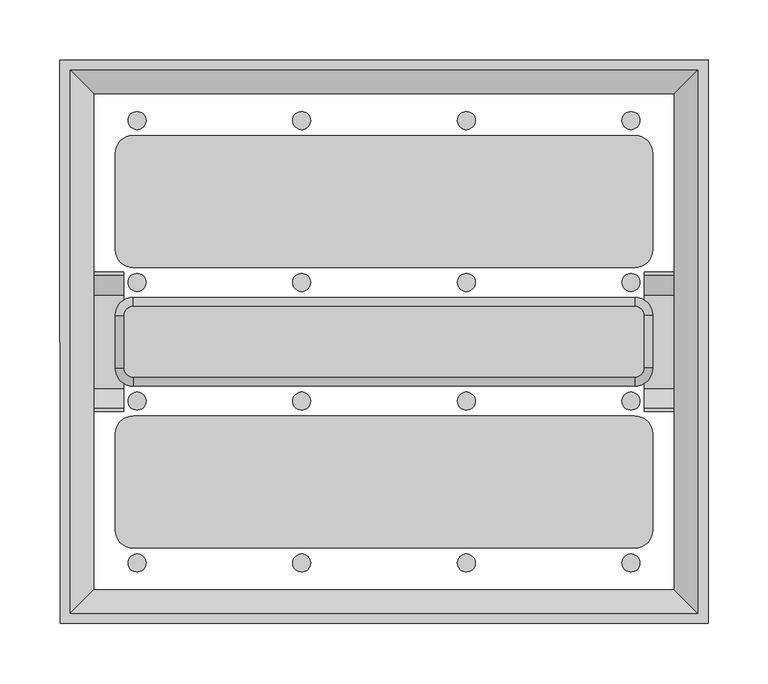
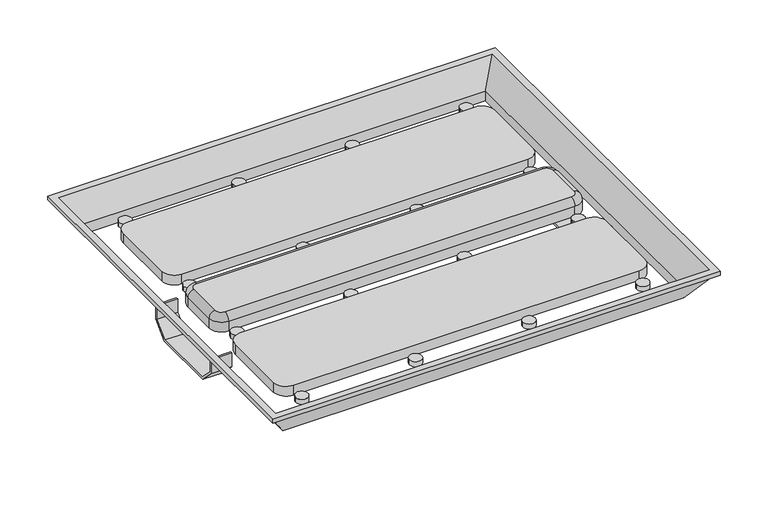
"""IFC4 building model written with IfcOpenShell, lengths in millimetres: light fixture geometry, Zumtobel CRAFT II Performance : CR2 M13k-840 PM WB LDO WH."""

from ifc_helpers import new_model, si_unit, point, frame, frame_2d, origin, place, context, project, spatial, polyline, circle_curve, ellipse_curve, trimmed, segment, composite_curve, outline, extrude, faceted_brep, source, transform, mapped, element, save
from ifc_brep_helpers import plane_surface, cylinder_surface, revolved_surface, advanced_brep


def light_fixture_134d5059(model_context):
    return source(origin(), model_context, "Body", "SolidModel", [
        extrude(outline(polyline([(58.0, 191.0), (40.0, 173.0), (-40.0, 173.0), (-58.0, 191.0), (-58.0, 209.0), (-55.5, 209.0), (-55.5, 192.0355339), (-38.9644661, 175.5), (38.9644661, 175.5), (55.5, 192.0355339), (55.5, 209.0), (58.0, 209.0), (58.0, 191.0)])), frame((616.5000048, 0.0, 0.0), z_axis=(1.0, 0.0, 0.0), x_axis=(0.0, 1.0, 0.0)), (0.0, 0.0, 1.0), 25.0),
        extrude(outline(polyline([(58.0, 191.0), (40.0, 173.0), (-40.0, 173.0), (-58.0, 191.0), (-58.0, 209.0), (-55.5, 209.0), (-55.5, 192.0355339), (-38.9644661, 175.5), (38.9644661, 175.5), (55.5, 192.0355339), (55.5, 209.0), (58.0, 209.0), (58.0, 191.0)])), frame((157.5000048, 0.0, 0.0), z_axis=(1.0, 0.0, 0.0), x_axis=(0.0, 1.0, 0.0)), (0.0, 0.0, 1.0), 25.0),
        faceted_brep([(641.5000048, 207.0, 209.0), (666.0853707, 231.5853659, 245.0), (666.0853707, -231.5853659, 245.0), (641.5000048, -207.0, 209.0), (641.5000048, 207.0, 221.5), (641.5000048, -207.0, 221.5), (660.9634195, 226.4634146, 250.0), (660.9634195, -226.4634146, 250.0), (669.5000048, 235.0, 245.0), (669.5000048, 235.0, 250.0), (669.5000048, -235.0, 250.0), (669.5000048, -235.0, 245.0), (132.914639, -231.5853659, 245.0), (157.5000048, -207.0, 209.0), (157.5000048, -207.0, 221.5), (138.0365902, -226.4634146, 250.0), (129.5000048, -235.0, 250.0), (129.5000048, -235.0, 245.0), (132.914639, 231.5853659, 245.0), (157.5000048, 207.0, 209.0), (157.5000048, 207.0, 221.5), (138.0365902, 226.4634146, 250.0), (129.5000048, 235.0, 250.0), (129.5000048, 235.0, 245.0)], [[[0, 1, 2, 3]], [[4, 0, 3, 5]], [[6, 4, 5, 7]], [[8, 9, 10, 11]], [[3, 2, 12, 13]], [[5, 3, 13, 14]], [[7, 5, 14, 15]], [[11, 10, 16, 17]], [[13, 12, 18, 19]], [[14, 13, 19, 20]], [[15, 14, 20, 21]], [[17, 16, 22, 23]], [[19, 18, 1, 0]], [[20, 19, 0, 4]], [[21, 20, 4, 6]], [[9, 22, 16, 10], [7, 15, 21, 6]], [[23, 22, 9, 8]], [[11, 17, 23, 8], [1, 18, 12, 2]]]),
        extrude(outline(composite_curve([segment(polyline([(175.5000048, -157.0), (175.5000048, -77.0)]), True, "CONTINUOUS"), segment(trimmed(circle_curve(frame_2d((190.5000048, -77.0)), 15.0), [point((175.5000048, -77.0))], [point((190.5000048, -62.0))], False, "CARTESIAN"), True, "CONTINUOUS"), segment(polyline([(190.5000048, -62.0), (608.5000048, -62.0)]), True, "CONTINUOUS"), segment(trimmed(circle_curve(frame_2d((608.5000048, -77.0)), 15.0), [point((608.5000048, -62.0))], [point((623.5000048, -77.0))], False, "CARTESIAN"), True, "CONTINUOUS"), segment(polyline([(623.5000048, -77.0), (623.5000048, -157.0)]), True, "CONTINUOUS"), segment(trimmed(circle_curve(frame_2d((608.5000048, -157.0)), 15.0), [point((623.5000048, -157.0))], [point((608.5000048, -172.0))], False, "CARTESIAN"), True, "CONTINUOUS"), segment(polyline([(608.5000048, -172.0), (190.5000048, -172.0)]), True, "CONTINUOUS"), segment(trimmed(circle_curve(frame_2d((190.5000048, -157.0)), 15.0), [point((190.5000048, -172.0))], [point((175.5000048, -157.0))], False, "CARTESIAN"), True, "CONTINUOUS")], self_intersect=False)), frame((0.0, 0.0, 221.5), z_axis=(0.0, 0.0, 1.0), x_axis=(1.0, 0.0, 0.0)), (0.0, 0.0, 1.0), 12.5),
        extrude(outline(composite_curve([segment(trimmed(circle_curve(frame_2d((608.5000048, 157.0)), 15.0), [point((608.5000048, 172.0))], [point((623.5000048, 157.0))], False, "CARTESIAN"), True, "CONTINUOUS"), segment(polyline([(623.5000048, 157.0), (623.5000048, 77.0)]), True, "CONTINUOUS"), segment(trimmed(circle_curve(frame_2d((608.5000048, 77.0)), 15.0), [point((623.5000048, 77.0))], [point((608.5000048, 62.0))], False, "CARTESIAN"), True, "CONTINUOUS"), segment(polyline([(608.5000048, 62.0), (190.5000048, 62.0)]), True, "CONTINUOUS"), segment(trimmed(circle_curve(frame_2d((190.5000048, 77.0)), 15.0), [point((190.5000048, 62.0))], [point((175.5000048, 77.0))], False, "CARTESIAN"), True, "CONTINUOUS"), segment(polyline([(175.5000048, 77.0), (175.5000048, 157.0)]), True, "CONTINUOUS"), segment(trimmed(circle_curve(frame_2d((190.5000048, 157.0)), 15.0), [point((175.5000048, 157.0))], [point((190.5000048, 172.0))], False, "CARTESIAN"), True, "CONTINUOUS"), segment(polyline([(190.5000048, 172.0), (608.5000048, 172.0)]), True, "CONTINUOUS")], self_intersect=False)), frame((0.0, 0.0, 221.5), z_axis=(0.0, 0.0, 1.0), x_axis=(1.0, 0.0, 0.0)), (0.0, 0.0, 1.0), 12.5),
        extrude(outline(composite_curve([segment(trimmed(circle_curve(frame_2d((193.6792473, -184.5)), 7.5), [point((186.1792473, -184.5))], [point((201.1792473, -184.5))], False, "CARTESIAN"), True, "CONTINUOUS"), segment(trimmed(circle_curve(frame_2d((193.6792473, -184.5)), 7.5), [point((201.1792473, -184.5))], [point((186.1792473, -184.5))], False, "CARTESIAN"), True, "CONTINUOUS")], self_intersect=False)), frame((0.0, 0.0, 221.5), z_axis=(0.0, 0.0, 1.0), x_axis=(1.0, 0.0, 0.0)), (0.0, 0.0, 1.0), 6.2),
        extrude(outline(composite_curve([segment(trimmed(circle_curve(frame_2d((330.8930856, -184.5)), 7.5), [point((323.3930856, -184.5))], [point((338.3930856, -184.5))], False, "CARTESIAN"), True, "CONTINUOUS"), segment(trimmed(circle_curve(frame_2d((330.8930856, -184.5)), 7.5), [point((338.3930856, -184.5))], [point((323.3930856, -184.5))], False, "CARTESIAN"), True, "CONTINUOUS")], self_intersect=False)), frame((0.0, 0.0, 221.5), z_axis=(0.0, 0.0, 1.0), x_axis=(1.0, 0.0, 0.0)), (0.0, 0.0, 1.0), 6.2),
        extrude(outline(composite_curve([segment(trimmed(circle_curve(frame_2d((468.106924, -184.5)), 7.5), [point((460.606924, -184.5))], [point((475.606924, -184.5))], False, "CARTESIAN"), True, "CONTINUOUS"), segment(trimmed(circle_curve(frame_2d((468.106924, -184.5)), 7.5), [point((475.606924, -184.5))], [point((460.606924, -184.5))], False, "CARTESIAN"), True, "CONTINUOUS")], self_intersect=False)), frame((0.0, 0.0, 221.5), z_axis=(0.0, 0.0, 1.0), x_axis=(1.0, 0.0, 0.0)), (0.0, 0.0, 1.0), 6.2),
        extrude(outline(composite_curve([segment(trimmed(circle_curve(frame_2d((605.3207623, -184.5)), 7.5), [point((597.8207623, -184.5))], [point((612.8207623, -184.5))], False, "CARTESIAN"), True, "CONTINUOUS"), segment(trimmed(circle_curve(frame_2d((605.3207623, -184.5)), 7.5), [point((612.8207623, -184.5))], [point((597.8207623, -184.5))], False, "CARTESIAN"), True, "CONTINUOUS")], self_intersect=False)), frame((0.0, 0.0, 221.5), z_axis=(0.0, 0.0, 1.0), x_axis=(1.0, 0.0, 0.0)), (0.0, 0.0, 1.0), 6.2),
        extrude(outline(composite_curve([segment(trimmed(circle_curve(frame_2d((193.6792473, -49.5)), 7.5), [point((186.1792473, -49.5))], [point((201.1792473, -49.5))], False, "CARTESIAN"), True, "CONTINUOUS"), segment(trimmed(circle_curve(frame_2d((193.6792473, -49.5)), 7.5), [point((201.1792473, -49.5))], [point((186.1792473, -49.5))], False, "CARTESIAN"), True, "CONTINUOUS")], self_intersect=False)), frame((0.0, 0.0, 221.5), z_axis=(0.0, 0.0, 1.0), x_axis=(1.0, 0.0, 0.0)), (0.0, 0.0, 1.0), 6.2),
        extrude(outline(composite_curve([segment(trimmed(circle_curve(frame_2d((330.8930856, -49.5)), 7.5), [point((323.3930856, -49.5))], [point((338.3930856, -49.5))], False, "CARTESIAN"), True, "CONTINUOUS"), segment(trimmed(circle_curve(frame_2d((330.8930856, -49.5)), 7.5), [point((338.3930856, -49.5))], [point((323.3930856, -49.5))], False, "CARTESIAN"), True, "CONTINUOUS")], self_intersect=False)), frame((0.0, 0.0, 221.5), z_axis=(0.0, 0.0, 1.0), x_axis=(1.0, 0.0, 0.0)), (0.0, 0.0, 1.0), 6.2),
        extrude(outline(composite_curve([segment(trimmed(circle_curve(frame_2d((468.106924, -49.5)), 7.5), [point((460.606924, -49.5))], [point((475.606924, -49.5))], False, "CARTESIAN"), True, "CONTINUOUS"), segment(trimmed(circle_curve(frame_2d((468.106924, -49.5)), 7.5), [point((475.606924, -49.5))], [point((460.606924, -49.5))], False, "CARTESIAN"), True, "CONTINUOUS")], self_intersect=False)), frame((0.0, 0.0, 221.5), z_axis=(0.0, 0.0, 1.0), x_axis=(1.0, 0.0, 0.0)), (0.0, 0.0, 1.0), 6.2),
        extrude(outline(composite_curve([segment(trimmed(circle_curve(frame_2d((605.3207623, -49.5)), 7.5), [point((597.8207623, -49.5))], [point((612.8207623, -49.5))], False, "CARTESIAN"), True, "CONTINUOUS"), segment(trimmed(circle_curve(frame_2d((605.3207623, -49.5)), 7.5), [point((612.8207623, -49.5))], [point((597.8207623, -49.5))], False, "CARTESIAN"), True, "CONTINUOUS")], self_intersect=False)), frame((0.0, 0.0, 221.5), z_axis=(0.0, 0.0, 1.0), x_axis=(1.0, 0.0, 0.0)), (0.0, 0.0, 1.0), 6.2),
        extrude(outline(composite_curve([segment(trimmed(circle_curve(frame_2d((193.6792473, 184.5)), 7.5), [point((186.1792473, 184.5))], [point((201.1792473, 184.5))], False, "CARTESIAN"), True, "CONTINUOUS"), segment(trimmed(circle_curve(frame_2d((193.6792473, 184.5)), 7.5), [point((201.1792473, 184.5))], [point((186.1792473, 184.5))], False, "CARTESIAN"), True, "CONTINUOUS")], self_intersect=False)), frame((0.0, 0.0, 221.5), z_axis=(0.0, 0.0, 1.0), x_axis=(1.0, 0.0, 0.0)), (0.0, 0.0, 1.0), 6.2),
        extrude(outline(composite_curve([segment(trimmed(circle_curve(frame_2d((330.8930856, 184.5)), 7.5), [point((323.3930856, 184.5))], [point((338.3930856, 184.5))], False, "CARTESIAN"), True, "CONTINUOUS"), segment(trimmed(circle_curve(frame_2d((330.8930856, 184.5)), 7.5), [point((338.3930856, 184.5))], [point((323.3930856, 184.5))], False, "CARTESIAN"), True, "CONTINUOUS")], self_intersect=False)), frame((0.0, 0.0, 221.5), z_axis=(0.0, 0.0, 1.0), x_axis=(1.0, 0.0, 0.0)), (0.0, 0.0, 1.0), 6.2),
        extrude(outline(composite_curve([segment(trimmed(circle_curve(frame_2d((468.106924, 184.5)), 7.5), [point((460.606924, 184.5))], [point((475.606924, 184.5))], False, "CARTESIAN"), True, "CONTINUOUS"), segment(trimmed(circle_curve(frame_2d((468.106924, 184.5)), 7.5), [point((475.606924, 184.5))], [point((460.606924, 184.5))], False, "CARTESIAN"), True, "CONTINUOUS")], self_intersect=False)), frame((0.0, 0.0, 221.5), z_axis=(0.0, 0.0, 1.0), x_axis=(1.0, 0.0, 0.0)), (0.0, 0.0, 1.0), 6.2),
        extrude(outline(composite_curve([segment(trimmed(circle_curve(frame_2d((605.3207623, 184.5)), 7.5), [point((597.8207623, 184.5))], [point((612.8207623, 184.5))], False, "CARTESIAN"), True, "CONTINUOUS"), segment(trimmed(circle_curve(frame_2d((605.3207623, 184.5)), 7.5), [point((612.8207623, 184.5))], [point((597.8207623, 184.5))], False, "CARTESIAN"), True, "CONTINUOUS")], self_intersect=False)), frame((0.0, 0.0, 221.5), z_axis=(0.0, 0.0, 1.0), x_axis=(1.0, 0.0, 0.0)), (0.0, 0.0, 1.0), 6.2),
        extrude(outline(composite_curve([segment(trimmed(circle_curve(frame_2d((193.6792473, 49.5)), 7.5), [point((186.1792473, 49.5))], [point((201.1792473, 49.5))], False, "CARTESIAN"), True, "CONTINUOUS"), segment(trimmed(circle_curve(frame_2d((193.6792473, 49.5)), 7.5), [point((201.1792473, 49.5))], [point((186.1792473, 49.5))], False, "CARTESIAN"), True, "CONTINUOUS")], self_intersect=False)), frame((0.0, 0.0, 221.5), z_axis=(0.0, 0.0, 1.0), x_axis=(1.0, 0.0, 0.0)), (0.0, 0.0, 1.0), 6.2),
        extrude(outline(composite_curve([segment(trimmed(circle_curve(frame_2d((330.8930856, 49.5)), 7.5), [point((323.3930856, 49.5))], [point((338.3930856, 49.5))], False, "CARTESIAN"), True, "CONTINUOUS"), segment(trimmed(circle_curve(frame_2d((330.8930856, 49.5)), 7.5), [point((338.3930856, 49.5))], [point((323.3930856, 49.5))], False, "CARTESIAN"), True, "CONTINUOUS")], self_intersect=False)), frame((0.0, 0.0, 221.5), z_axis=(0.0, 0.0, 1.0), x_axis=(1.0, 0.0, 0.0)), (0.0, 0.0, 1.0), 6.2),
        extrude(outline(composite_curve([segment(trimmed(circle_curve(frame_2d((468.106924, 49.5)), 7.5), [point((460.606924, 49.5))], [point((475.606924, 49.5))], False, "CARTESIAN"), True, "CONTINUOUS"), segment(trimmed(circle_curve(frame_2d((468.106924, 49.5)), 7.5), [point((475.606924, 49.5))], [point((460.606924, 49.5))], False, "CARTESIAN"), True, "CONTINUOUS")], self_intersect=False)), frame((0.0, 0.0, 221.5), z_axis=(0.0, 0.0, 1.0), x_axis=(1.0, 0.0, 0.0)), (0.0, 0.0, 1.0), 6.2),
        extrude(outline(composite_curve([segment(trimmed(circle_curve(frame_2d((605.3207623, 49.5)), 7.5), [point((597.8207623, 49.5))], [point((612.8207623, 49.5))], False, "CARTESIAN"), True, "CONTINUOUS"), segment(trimmed(circle_curve(frame_2d((605.3207623, 49.5)), 7.5), [point((612.8207623, 49.5))], [point((597.8207623, 49.5))], False, "CARTESIAN"), True, "CONTINUOUS")], self_intersect=False)), frame((0.0, 0.0, 221.5), z_axis=(0.0, 0.0, 1.0), x_axis=(1.0, 0.0, 0.0)), (0.0, 0.0, 1.0), 6.2),
        advanced_brep(
        [(623.5000048, -22.0, 221.5), (608.5000048, -37.0, 221.5), (190.5000048, -37.0, 221.5), (175.5000048, -22.0, 221.5), (175.5000048, 22.0, 221.5), (190.5000048, 37.0, 221.5), (608.5000048, 37.0, 221.5), (623.5000048, 22.0, 221.5), (608.5000048, 29.5, 241.5), (190.5000048, 29.5, 241.5), (183.0000048, 22.0, 241.5), (183.0000048, -22.0, 241.5), (190.5000048, -29.5, 241.5), (608.5000048, -29.5, 241.5), (616.0000048, -22.0, 241.5), (616.0000048, 22.0, 241.5), (608.5000048, 37.0, 234.0), (190.5000048, 37.0, 234.0), (175.5000048, 22.0, 234.0), (175.5000048, -22.0, 234.0), (190.5000048, -37.0, 234.0), (608.5000048, -37.0, 234.0), (623.5000048, -22.0, 234.0), (623.5000048, 22.0, 234.0)],
        [
            (0, 1, circle_curve(frame((608.5000048, -22.0, 221.5), z_axis=(0.0, 0.0, -1.0), x_axis=(0.0, -1.0, 0.0)), 15.0)),
            (1, 2),
            (2, 3, circle_curve(frame((190.5000048, -22.0, 221.5), z_axis=(0.0, 0.0, -1.0), x_axis=(-1.0, 0.0, 0.0)), 15.0)),
            (3, 4),
            (4, 5, circle_curve(frame((190.5000048, 22.0, 221.5), z_axis=(0.0, 0.0, -1.0), x_axis=(0.0, 1.0, 0.0)), 15.0)),
            (5, 6),
            (6, 7, circle_curve(frame((608.5000048, 22.0, 221.5), z_axis=(0.0, 0.0, -1.0), x_axis=(1.0, 0.0, 0.0)), 15.0)),
            (7, 0),
            (8, 9),
            (9, 10, circle_curve(frame((190.5000048, 22.0, 241.5), z_axis=(0.0, 0.0, 1.0), x_axis=(0.0, 1.0, 0.0)), 7.5)),
            (10, 11),
            (11, 12, circle_curve(frame((190.5000048, -22.0, 241.5), z_axis=(0.0, 0.0, 1.0), x_axis=(-1.0, 0.0, 0.0)), 7.5)),
            (12, 13),
            (13, 14, circle_curve(frame((608.5000048, -22.0, 241.5), z_axis=(0.0, 0.0, 1.0), x_axis=(0.0, -1.0, 0.0)), 7.5)),
            (14, 15),
            (15, 8, circle_curve(frame((608.5000048, 22.0, 241.5), z_axis=(0.0, 0.0, 1.0), x_axis=(1.0, 0.0, 0.0)), 7.5)),
            (8, 16, circle_curve(frame((608.5000048, 29.5, 234.0), z_axis=(-1.0, 0.0, 0.0), x_axis=(0.0, -1.0, 0.0)), 7.5)),
            (16, 17),
            (17, 9, circle_curve(frame((190.5000048, 29.5, 234.0), z_axis=(1.0, 0.0, 0.0), x_axis=(0.0, -1.0, 0.0)), 7.5)),
            (17, 18, circle_curve(frame((190.5000048, 22.0, 234.0), z_axis=(0.0, 0.0, 1.0), x_axis=(0.0, 1.0, 0.0)), 15.0)),
            (18, 10, circle_curve(frame((183.0000048, 22.0, 234.0), z_axis=(0.0, 1.0, 0.0), x_axis=(1.0, 0.0, 0.0)), 7.5)),
            (18, 19),
            (19, 11, circle_curve(frame((183.0000048, -22.0, 234.0), z_axis=(0.0, 1.0, 0.0), x_axis=(1.0, 0.0, 0.0)), 7.5)),
            (19, 20, circle_curve(frame((190.5000048, -22.0, 234.0), z_axis=(0.0, 0.0, 1.0), x_axis=(-1.0, 0.0, 0.0)), 15.0)),
            (20, 12, circle_curve(frame((190.5000048, -29.5, 234.0), z_axis=(-1.0, 0.0, 0.0), x_axis=(0.0, 1.0, 0.0)), 7.5)),
            (20, 21),
            (21, 13, circle_curve(frame((608.5000048, -29.5, 234.0), z_axis=(-1.0, 0.0, 0.0), x_axis=(0.0, 1.0, 0.0)), 7.5)),
            (21, 22, circle_curve(frame((608.5000048, -22.0, 234.0), z_axis=(0.0, 0.0, 1.0), x_axis=(0.0, -1.0, 0.0)), 15.0)),
            (22, 14, circle_curve(frame((616.0000048, -22.0, 234.0), z_axis=(0.0, -1.0, 0.0), x_axis=(-1.0, 0.0, 0.0)), 7.5)),
            (22, 23),
            (23, 15, circle_curve(frame((616.0000048, 22.0, 234.0), z_axis=(0.0, -1.0, 0.0), x_axis=(-1.0, 0.0, 0.0)), 7.5)),
            (21, 1),
            (0, 22),
            (7, 23),
            (6, 16),
            (16, 23, circle_curve(frame((608.5000048, 22.0, 234.0), z_axis=(0.0, 0.0, -1.0), x_axis=(1.0, 0.0, 0.0)), 15.0)),
            (5, 17),
            (4, 18),
            (3, 19),
            (2, 20),
        ],
        [
            plane_surface(frame((190.5000048, -29.5, 221.5), z_axis=(0.0, 0.0, -1.0), x_axis=(-1.0, 0.0, 0.0))),
            plane_surface(frame((190.5000048, -29.5, 241.5), z_axis=(0.0, 0.0, 1.0), x_axis=(1.0, 0.0, 0.0))),
            cylinder_surface(frame((608.5000048, 29.5, 234.0), z_axis=(1.0, 0.0, 0.0), x_axis=(0.0, -1.0, 0.0)), 7.5),
            revolved_surface(trimmed(ellipse_curve(frame((190.5000048, 29.5, 234.0), z_axis=(1.0, 0.0, 0.0), x_axis=(0.0, -1.0, 0.0)), 7.5, 7.5), [point((190.5000048, 37.0, 234.0))], [point((190.5000048, 29.5, 241.5))], True, "CARTESIAN"), (190.5000048, 22.0, 234.0), (0.0, 0.0, 1.0)),
            cylinder_surface(frame((183.0000048, 22.0, 234.0), z_axis=(0.0, 1.0, 0.0), x_axis=(1.0, 0.0, 0.0)), 7.5),
            revolved_surface(trimmed(ellipse_curve(frame((183.0000048, -22.0, 234.0), z_axis=(0.0, 1.0, 0.0), x_axis=(1.0, 0.0, 0.0)), 7.5, 7.5), [point((175.5000048, -22.0, 234.0))], [point((183.0000048, -22.0, 241.5))], True, "CARTESIAN"), (190.5000048, -22.0, 234.0), (0.0, 0.0, 1.0)),
            cylinder_surface(frame((190.5000048, -29.5, 234.0), z_axis=(-1.0, 0.0, 0.0), x_axis=(0.0, 1.0, 0.0)), 7.5),
            revolved_surface(trimmed(ellipse_curve(frame((608.5000048, -29.5, 234.0), z_axis=(-1.0, 0.0, 0.0), x_axis=(0.0, 1.0, 0.0)), 7.5, 7.5), [point((608.5000048, -37.0, 234.0))], [point((608.5000048, -29.5, 241.5))], True, "CARTESIAN"), (608.5000048, -22.0, 234.0), (0.0, 0.0, 1.0)),
            cylinder_surface(frame((616.0000048, -22.0, 234.0), z_axis=(0.0, -1.0, 0.0), x_axis=(-1.0, 0.0, 0.0)), 7.5),
            cylinder_surface(frame((608.5000048, -22.0, 234.0), z_axis=(0.0, 0.0, 1.0), x_axis=(0.0, -1.0, 0.0)), 15.0),
            plane_surface(frame((623.5000048, -22.0, 221.5), z_axis=(1.0, 0.0, 0.0), x_axis=(0.0, 1.0, 0.0))),
            cylinder_surface(frame((608.5000048, 22.0, 234.0), z_axis=(0.0, 0.0, 1.0), x_axis=(1.0, 0.0, 0.0)), 15.0),
            revolved_surface(trimmed(ellipse_curve(frame((616.0000048, 22.0, 234.0), z_axis=(0.0, -1.0, 0.0), x_axis=(-1.0, 0.0, 0.0)), 7.5, 7.5), [point((623.5000048, 22.0, 234.0))], [point((616.0000048, 22.0, 241.5))], True, "CARTESIAN"), (608.5000048, 22.0, 234.0), (0.0, 0.0, 1.0)),
            plane_surface(frame((608.5000048, 37.0, 221.5), z_axis=(0.0, 1.0, 0.0), x_axis=(-1.0, 0.0, 0.0))),
            cylinder_surface(frame((190.5000048, 22.0, 234.0), z_axis=(0.0, 0.0, 1.0), x_axis=(0.0, 1.0, 0.0)), 15.0),
            plane_surface(frame((175.5000048, 22.0, 221.5), z_axis=(-1.0, 0.0, 0.0), x_axis=(0.0, -1.0, 0.0))),
            cylinder_surface(frame((190.5000048, -22.0, 234.0), z_axis=(0.0, 0.0, 1.0), x_axis=(-1.0, 0.0, 0.0)), 15.0),
            plane_surface(frame((190.5000048, -37.0, 221.5), z_axis=(0.0, -1.0, 0.0), x_axis=(1.0, 0.0, 0.0))),
        ],
        [
            (0, [[1, 2, 3, 4, 5, 6, 7, 8]]),
            (1, [[9, 10, 11, 12, 13, 14, 15, 16]]),
            (2, [[17, 18, 19, -9]]),
            (3, [[-19, 20, 21, -10]]),
            (4, [[-21, 22, 23, -11]]),
            (5, [[-23, 24, 25, -12]]),
            (6, [[-25, 26, 27, -13]]),
            (7, [[-27, 28, 29, -14]]),
            (8, [[-29, 30, 31, -15]]),
            (9, [[-28, 32, -1, 33]]),
            (10, [[-30, -33, -8, 34]]),
            (11, [[-34, -7, 35, 36]]),
            (12, [[-17, -16, -31, -36]]),
            (13, [[-18, -35, -6, 37]]),
            (14, [[-20, -37, -5, 38]]),
            (15, [[-22, -38, -4, 39]]),
            (16, [[-24, -39, -3, 40]]),
            (17, [[-26, -40, -2, -32]]),
        ],
    ),
    ])


if __name__ == "__main__":
    model = new_model("IFC4")
    model_context = context("Model", 3, world=origin())
    ifc_project = project(units=[si_unit("LENGTHUNIT", "METRE", prefix="MILLI")], contexts=[model_context])
    site = spatial("IfcSite", under=ifc_project)
    building = spatial("IfcBuilding", under=site)
    placement = place(None, origin())
    light_fixture_shape = light_fixture_134d5059(model_context)
    element("IfcLightFixture", 1, ObjectType="Zumtobel CRAFT II Performance : CR2 M13k-840 PM WB LDO WH", at=placement, inside=building, context=model_context, shape_type="MappedRepresentation", body=[
        mapped(light_fixture_shape, transform((0.0, 0.0, 0.0), x_axis=(1.0, 0.0, 0.0), y_axis=(0.0, 1.0, 0.0), z_axis=(0.0, 0.0, 1.0))),
    ])
    save(model, "model.ifc")
